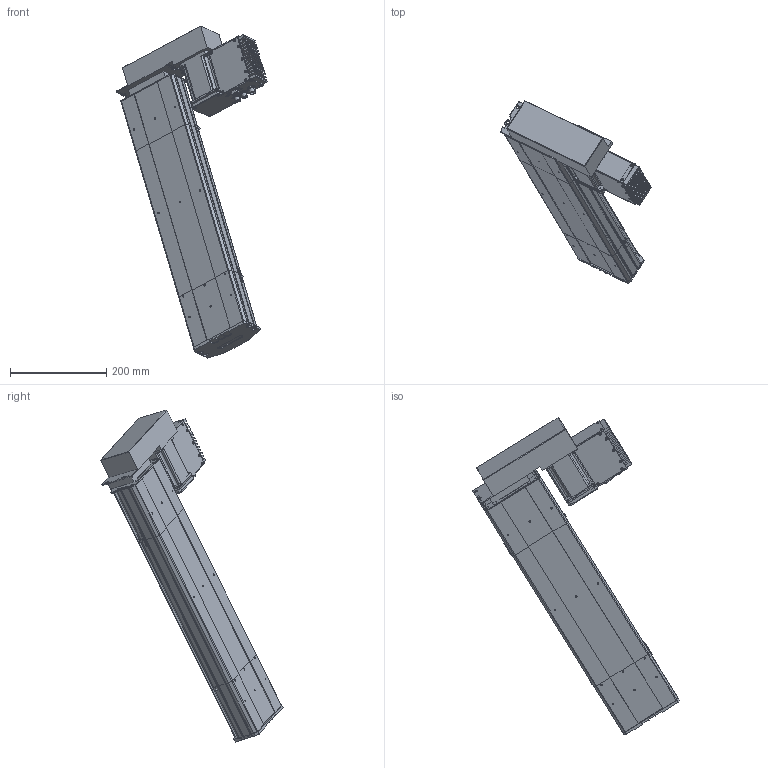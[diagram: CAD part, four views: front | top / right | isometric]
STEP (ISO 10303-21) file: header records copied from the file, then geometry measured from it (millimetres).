
FILE_DESCRIPTION (( 'STEP AP203' ), '1' );
FILE_NAME ('D14 TSH M4 BL L10 S350.STEP', '2012-10-11T07:46:34', ( '' ), ( '' ), 'SwSTEP 2.0', 'SolidWorks 2010', '' );
FILE_SCHEMA (( 'CONFIG_CONTROL_DESIGN' ));
Products named in the file (23): corpl tail D14_Default_2; couvercle D14_Default_2; Connecteur rond D10 3cts_2; Tôle Arrière_2; Couvercle_2; Radiateur_2; Vis TF 3 torkx_2; D14 TSH M4 BL L10 S350; corp head D14_Default_2; plaque de  bout head D14 MD_Default_2; couvercle D14 course L350_Default_2; Moteur_2; T犨e contre le moteur_2; Sub D 9cts_2; T犨e fond_2; Tôle latérale_2; Connecteur rond D12 4cts_2; Moteur 70BLDC90A_2; Colonnette_2; corpl 350_Default_2; couvercle D14 head_Default_2; plaque de  bout tail D14_Default_2; plaque de bout head D14 BL
Assembly tree (49 placements, depth 3):
  D14 TSH M4 BL L10 S350
    couvercle D14_Default_2
    corpl 350_Default_2
    corp head D14_Default_2
    plaque de  bout head D14 MD_Default_2
    corpl tail D14_Default_2
    couvercle D14 head_Default_2
    couvercle D14 course L350_Default_2
    Moteur_2
      Vis TF 3 torkx_2  x26
      Connecteur rond D10 3cts_2  x2
      Tôle Arrière_2
      Couvercle_2
      Sub D 9cts_2
      Connecteur rond D12 4cts_2
      Moteur 70BLDC90A_2
      T犨e fond_2
      Tôle latérale_2  x2
      Colonnette_2
      T犨e contre le moteur_2
      Radiateur_2
    plaque de bout head D14 BL
    plaque de  bout tail D14_Default_2
Bounding box: 312.5 x 378.67 x 689.14 mm (x, y, z)
Volume: 3022802.5 mm3; surface area: 869193.8 mm2
Topology: 70 solids, 70 shells, 2405 faces, 6279 edges, 4139 vertices
Faces by surface type: plane 1298, cylinder 843, cone 134, bspline 130
Entity records: 65099 total; most frequent: CARTESIAN_POINT 20923, ORIENTED_EDGE 8612, DIRECTION 8238, EDGE_CURVE 4306, LINE 2878, VECTOR 2878, VERTEX_POINT 2845, AXIS2_PLACEMENT_3D 2680
